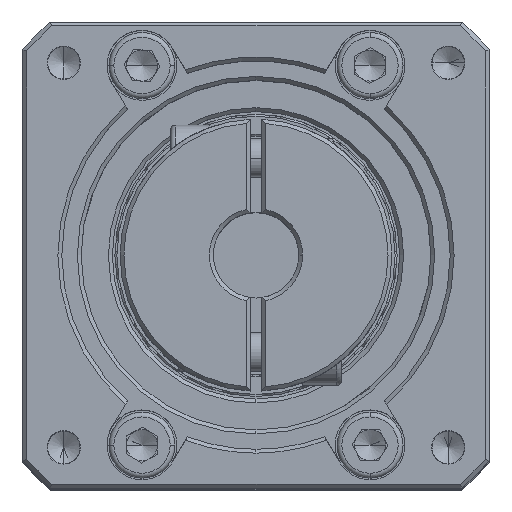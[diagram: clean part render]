
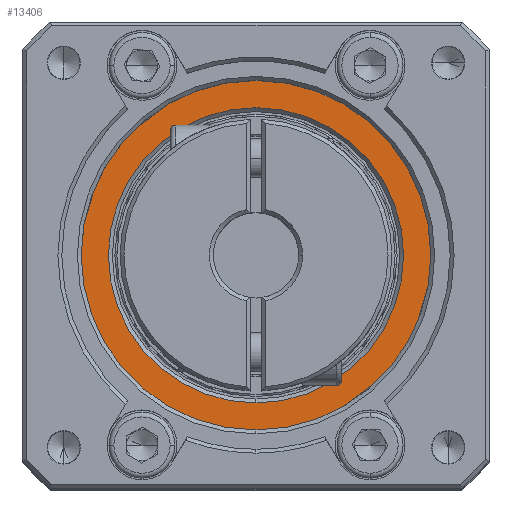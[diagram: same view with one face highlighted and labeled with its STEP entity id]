
A CAD part, top view. The second image highlights one B-rep face of the part: STEP entity #13406.
In plain terms, the highlighted planar face has unit normal (0, 0, 1).
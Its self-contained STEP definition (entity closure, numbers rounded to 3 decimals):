
#264 = EDGE_CURVE ( 'NONE', #27966, #97305, #43435, .T. ) ;
#356 = DIRECTION ( 'NONE',  ( 0., 0., 1. ) ) ;
#10363 = CARTESIAN_POINT ( 'NONE',  ( -29.648, 26.74, -12.571 ) ) ;
#12100 = FACE_BOUND ( 'NONE', #64597, .T. ) ;
#12868 = CARTESIAN_POINT ( 'NONE',  ( -29.648, 26.74, -12.571 ) ) ;
#13406 = ADVANCED_FACE ( 'NONE', ( #12100, #103444 ), #46722, .T. ) ;
#21778 = AXIS2_PLACEMENT_3D ( 'NONE', #12868, #37341, #71946 ) ;
#24767 = ORIENTED_EDGE ( 'NONE', *, *, #264, .T. ) ;
#27117 = DIRECTION ( 'NONE',  ( 0., -1., 0. ) ) ;
#27966 = VERTEX_POINT ( 'NONE', #56086 ) ;
#29588 = AXIS2_PLACEMENT_3D ( 'NONE', #96835, #105534, #30769 ) ;
#30769 = DIRECTION ( 'NONE',  ( 0., -1., 0. ) ) ;
#32430 = AXIS2_PLACEMENT_3D ( 'NONE', #10363, #102280, #27117 ) ;
#37341 = DIRECTION ( 'NONE',  ( 0., 0., 1. ) ) ;
#42911 = ORIENTED_EDGE ( 'NONE', *, *, #81805, .T. ) ;
#43435 = CIRCLE ( 'NONE', #75952, 22.5 ) ;
#45296 = ORIENTED_EDGE ( 'NONE', *, *, #78982, .T. ) ;
#46722 = PLANE ( 'NONE',  #21778 ) ;
#54553 = DIRECTION ( 'NONE',  ( 0., -1., 0. ) ) ;
#56086 = CARTESIAN_POINT ( 'NONE',  ( -29.648, 49.24, -12.571 ) ) ;
#56575 = CARTESIAN_POINT ( 'NONE',  ( -29.648, 4.24, -12.571 ) ) ;
#58332 = CIRCLE ( 'NONE', #100559, 22.5 ) ;
#60608 = VERTEX_POINT ( 'NONE', #75143 ) ;
#61526 = DIRECTION ( 'NONE',  ( 0., 0., 1. ) ) ;
#64597 = EDGE_LOOP ( 'NONE', ( #73419, #42911 ) ) ;
#70866 = CIRCLE ( 'NONE', #32430, 19. ) ;
#71946 = DIRECTION ( 'NONE',  ( 0., -1., 0. ) ) ;
#73419 = ORIENTED_EDGE ( 'NONE', *, *, #97726, .T. ) ;
#75143 = CARTESIAN_POINT ( 'NONE',  ( -29.648, 7.74, -12.571 ) ) ;
#75952 = AXIS2_PLACEMENT_3D ( 'NONE', #77287, #61526, #54553 ) ;
#77287 = CARTESIAN_POINT ( 'NONE',  ( -29.648, 26.74, -12.571 ) ) ;
#78982 = EDGE_CURVE ( 'NONE', #97305, #27966, #58332, .T. ) ;
#80144 = CARTESIAN_POINT ( 'NONE',  ( -29.648, 45.74, -12.571 ) ) ;
#81805 = EDGE_CURVE ( 'NONE', #104875, #60608, #99025, .T. ) ;
#83164 = EDGE_LOOP ( 'NONE', ( #45296, #24767 ) ) ;
#83473 = CARTESIAN_POINT ( 'NONE',  ( -29.648, 26.74, -12.571 ) ) ;
#96835 = CARTESIAN_POINT ( 'NONE',  ( -29.648, 26.74, -12.571 ) ) ;
#97305 = VERTEX_POINT ( 'NONE', #56575 ) ;
#97726 = EDGE_CURVE ( 'NONE', #60608, #104875, #70866, .T. ) ;
#99025 = CIRCLE ( 'NONE', #29588, 19. ) ;
#100559 = AXIS2_PLACEMENT_3D ( 'NONE', #83473, #356, #107928 ) ;
#102280 = DIRECTION ( 'NONE',  ( 0., 0., -1. ) ) ;
#103444 = FACE_OUTER_BOUND ( 'NONE', #83164, .T. ) ;
#104875 = VERTEX_POINT ( 'NONE', #80144 ) ;
#105534 = DIRECTION ( 'NONE',  ( 0., 0., -1. ) ) ;
#107928 = DIRECTION ( 'NONE',  ( 0., -1., 0. ) ) ;
